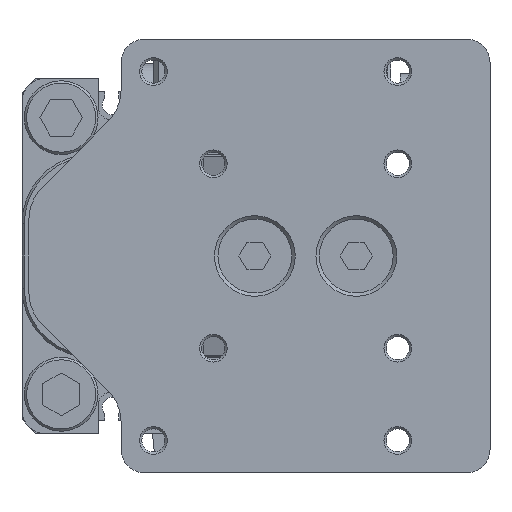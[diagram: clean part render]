
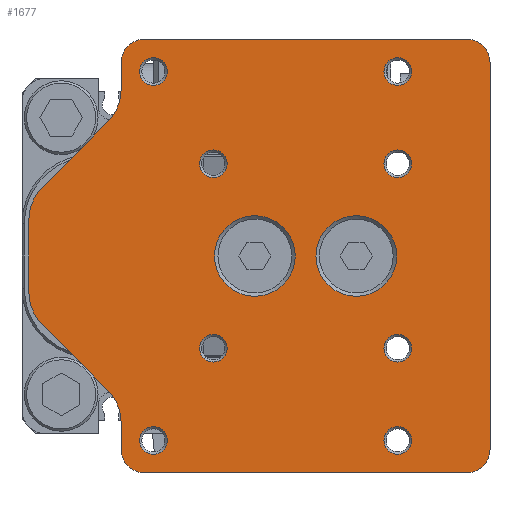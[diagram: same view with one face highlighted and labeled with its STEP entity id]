
A CAD part, front view. The second image highlights one B-rep face of the part: STEP entity #1677.
In plain terms, the highlighted planar face has unit normal (0, -1, 0).
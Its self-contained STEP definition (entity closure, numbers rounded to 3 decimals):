
#838=FACE_BOUND('',#3582,.T.);
#839=FACE_BOUND('',#3583,.T.);
#840=FACE_BOUND('',#3584,.T.);
#841=FACE_BOUND('',#3585,.T.);
#842=FACE_BOUND('',#3586,.T.);
#843=FACE_BOUND('',#3587,.T.);
#844=FACE_BOUND('',#3588,.T.);
#845=FACE_BOUND('',#3589,.T.);
#846=FACE_BOUND('',#3590,.T.);
#847=FACE_BOUND('',#3591,.T.);
#848=FACE_BOUND('',#3592,.T.);
#1677=ADVANCED_FACE('',(#838,#839,#840,#841,#842,#843,#844,#845,#846,#847,
#848),#2529,.T.);
#2529=PLANE('',#13729);
#3582=EDGE_LOOP('',(#5785,#5786,#5787,#5788,#5789,#5790,#5791,#5792,#5793,
#5794,#5795,#5796,#5797,#5798,#5799,#5800));
#3583=EDGE_LOOP('',(#5801));
#3584=EDGE_LOOP('',(#5802));
#3585=EDGE_LOOP('',(#5803));
#3586=EDGE_LOOP('',(#5804));
#3587=EDGE_LOOP('',(#5805));
#3588=EDGE_LOOP('',(#5806));
#3589=EDGE_LOOP('',(#5807));
#3590=EDGE_LOOP('',(#5808));
#3591=EDGE_LOOP('',(#5809));
#3592=EDGE_LOOP('',(#5810));
#4861=CIRCLE('',#13711,10.);
#4862=CIRCLE('',#13712,5.);
#4863=CIRCLE('',#13713,5.);
#4864=CIRCLE('',#13714,5.);
#4865=CIRCLE('',#13715,5.);
#4866=CIRCLE('',#13716,10.);
#4867=CIRCLE('',#13717,10.);
#4868=CIRCLE('',#13718,10.);
#4869=CIRCLE('',#13719,8.75);
#4870=CIRCLE('',#13720,3.);
#4871=CIRCLE('',#13721,3.);
#4872=CIRCLE('',#13722,3.);
#4873=CIRCLE('',#13723,3.);
#4874=CIRCLE('',#13724,3.);
#4875=CIRCLE('',#13725,3.);
#4876=CIRCLE('',#13726,3.);
#4877=CIRCLE('',#13727,3.);
#4878=CIRCLE('',#13728,8.75);
#5785=ORIENTED_EDGE('',*,*,#10206,.T.);
#5786=ORIENTED_EDGE('',*,*,#10207,.T.);
#5787=ORIENTED_EDGE('',*,*,#10208,.T.);
#5788=ORIENTED_EDGE('',*,*,#10209,.T.);
#5789=ORIENTED_EDGE('',*,*,#10210,.T.);
#5790=ORIENTED_EDGE('',*,*,#10211,.T.);
#5791=ORIENTED_EDGE('',*,*,#10212,.T.);
#5792=ORIENTED_EDGE('',*,*,#10213,.T.);
#5793=ORIENTED_EDGE('',*,*,#10214,.T.);
#5794=ORIENTED_EDGE('',*,*,#10215,.T.);
#5795=ORIENTED_EDGE('',*,*,#10216,.T.);
#5796=ORIENTED_EDGE('',*,*,#10217,.T.);
#5797=ORIENTED_EDGE('',*,*,#10218,.T.);
#5798=ORIENTED_EDGE('',*,*,#10219,.T.);
#5799=ORIENTED_EDGE('',*,*,#10220,.T.);
#5800=ORIENTED_EDGE('',*,*,#10221,.T.);
#5801=ORIENTED_EDGE('',*,*,#10222,.T.);
#5802=ORIENTED_EDGE('',*,*,#10223,.T.);
#5803=ORIENTED_EDGE('',*,*,#10224,.T.);
#5804=ORIENTED_EDGE('',*,*,#10225,.T.);
#5805=ORIENTED_EDGE('',*,*,#10226,.T.);
#5806=ORIENTED_EDGE('',*,*,#10227,.T.);
#5807=ORIENTED_EDGE('',*,*,#10228,.T.);
#5808=ORIENTED_EDGE('',*,*,#10229,.T.);
#5809=ORIENTED_EDGE('',*,*,#10230,.T.);
#5810=ORIENTED_EDGE('',*,*,#10231,.T.);
#8916=VERTEX_POINT('',#19448);
#8917=VERTEX_POINT('',#19449);
#8918=VERTEX_POINT('',#19451);
#8919=VERTEX_POINT('',#19453);
#8920=VERTEX_POINT('',#19455);
#8921=VERTEX_POINT('',#19457);
#8922=VERTEX_POINT('',#19459);
#8923=VERTEX_POINT('',#19461);
#8924=VERTEX_POINT('',#19463);
#8925=VERTEX_POINT('',#19465);
#8926=VERTEX_POINT('',#19467);
#8927=VERTEX_POINT('',#19469);
#8928=VERTEX_POINT('',#19471);
#8929=VERTEX_POINT('',#19473);
#8930=VERTEX_POINT('',#19475);
#8931=VERTEX_POINT('',#19477);
#8932=VERTEX_POINT('',#19480);
#8933=VERTEX_POINT('',#19482);
#8934=VERTEX_POINT('',#19484);
#8935=VERTEX_POINT('',#19486);
#8936=VERTEX_POINT('',#19488);
#8937=VERTEX_POINT('',#19490);
#8938=VERTEX_POINT('',#19492);
#8939=VERTEX_POINT('',#19494);
#8940=VERTEX_POINT('',#19496);
#8941=VERTEX_POINT('',#19498);
#10206=EDGE_CURVE('',#8916,#8917,#11839,.T.);
#10207=EDGE_CURVE('',#8917,#8918,#4861,.T.);
#10208=EDGE_CURVE('',#8918,#8919,#11840,.T.);
#10209=EDGE_CURVE('',#8919,#8920,#4862,.T.);
#10210=EDGE_CURVE('',#8920,#8921,#11841,.T.);
#10211=EDGE_CURVE('',#8921,#8922,#4863,.T.);
#10212=EDGE_CURVE('',#8922,#8923,#11842,.T.);
#10213=EDGE_CURVE('',#8923,#8924,#4864,.T.);
#10214=EDGE_CURVE('',#8924,#8925,#11843,.T.);
#10215=EDGE_CURVE('',#8925,#8926,#4865,.T.);
#10216=EDGE_CURVE('',#8926,#8927,#11844,.T.);
#10217=EDGE_CURVE('',#8927,#8928,#4866,.T.);
#10218=EDGE_CURVE('',#8928,#8929,#11845,.T.);
#10219=EDGE_CURVE('',#8929,#8930,#4867,.T.);
#10220=EDGE_CURVE('',#8930,#8931,#11846,.T.);
#10221=EDGE_CURVE('',#8931,#8916,#4868,.T.);
#10222=EDGE_CURVE('',#8932,#8932,#4869,.T.);
#10223=EDGE_CURVE('',#8933,#8933,#4870,.T.);
#10224=EDGE_CURVE('',#8934,#8934,#4871,.T.);
#10225=EDGE_CURVE('',#8935,#8935,#4872,.T.);
#10226=EDGE_CURVE('',#8936,#8936,#4873,.T.);
#10227=EDGE_CURVE('',#8937,#8937,#4874,.T.);
#10228=EDGE_CURVE('',#8938,#8938,#4875,.T.);
#10229=EDGE_CURVE('',#8939,#8939,#4876,.T.);
#10230=EDGE_CURVE('',#8940,#8940,#4877,.T.);
#10231=EDGE_CURVE('',#8941,#8941,#4878,.T.);
#11839=LINE('',#19447,#12767);
#11840=LINE('',#19452,#12768);
#11841=LINE('',#19456,#12769);
#11842=LINE('',#19460,#12770);
#11843=LINE('',#19464,#12771);
#11844=LINE('',#19468,#12772);
#11845=LINE('',#19472,#12773);
#11846=LINE('',#19476,#12774);
#12767=VECTOR('',#15476,1.);
#12768=VECTOR('',#15479,1.);
#12769=VECTOR('',#15482,1.);
#12770=VECTOR('',#15485,1.);
#12771=VECTOR('',#15488,1.);
#12772=VECTOR('',#15491,1.);
#12773=VECTOR('',#15494,1.);
#12774=VECTOR('',#15497,1.);
#13711=AXIS2_PLACEMENT_3D('',#19450,#15477,#15478);
#13712=AXIS2_PLACEMENT_3D('',#19454,#15480,#15481);
#13713=AXIS2_PLACEMENT_3D('',#19458,#15483,#15484);
#13714=AXIS2_PLACEMENT_3D('',#19462,#15486,#15487);
#13715=AXIS2_PLACEMENT_3D('',#19466,#15489,#15490);
#13716=AXIS2_PLACEMENT_3D('',#19470,#15492,#15493);
#13717=AXIS2_PLACEMENT_3D('',#19474,#15495,#15496);
#13718=AXIS2_PLACEMENT_3D('',#19478,#15498,#15499);
#13719=AXIS2_PLACEMENT_3D('',#19479,#15500,#15501);
#13720=AXIS2_PLACEMENT_3D('',#19481,#15502,#15503);
#13721=AXIS2_PLACEMENT_3D('',#19483,#15504,#15505);
#13722=AXIS2_PLACEMENT_3D('',#19485,#15506,#15507);
#13723=AXIS2_PLACEMENT_3D('',#19487,#15508,#15509);
#13724=AXIS2_PLACEMENT_3D('',#19489,#15510,#15511);
#13725=AXIS2_PLACEMENT_3D('',#19491,#15512,#15513);
#13726=AXIS2_PLACEMENT_3D('',#19493,#15514,#15515);
#13727=AXIS2_PLACEMENT_3D('',#19495,#15516,#15517);
#13728=AXIS2_PLACEMENT_3D('',#19497,#15518,#15519);
#13729=AXIS2_PLACEMENT_3D('',#19499,#15520,#15521);
#15476=DIRECTION('',(0.707,0.,-0.707));
#15477=DIRECTION('',(0.,1.,0.));
#15478=DIRECTION('',(0.707,0.,0.707));
#15479=DIRECTION('',(0.,0.,-1.));
#15480=DIRECTION('',(0.,-1.,0.));
#15481=DIRECTION('',(-1.,0.,0.));
#15482=DIRECTION('',(1.,0.,0.));
#15483=DIRECTION('',(0.,-1.,0.));
#15484=DIRECTION('',(0.,0.,-1.));
#15485=DIRECTION('',(0.,0.,1.));
#15486=DIRECTION('',(0.,-1.,0.));
#15487=DIRECTION('',(1.,0.,0.));
#15488=DIRECTION('',(-1.,0.,0.));
#15489=DIRECTION('',(0.,-1.,0.));
#15490=DIRECTION('',(0.,0.,1.));
#15491=DIRECTION('',(0.,0.,-1.));
#15492=DIRECTION('',(0.,1.,0.));
#15493=DIRECTION('',(1.,0.,0.));
#15494=DIRECTION('',(-0.707,0.,-0.707));
#15495=DIRECTION('',(0.,-1.,0.));
#15496=DIRECTION('',(-0.707,0.,0.707));
#15497=DIRECTION('',(0.,0.,-1.));
#15498=DIRECTION('',(0.,-1.,0.));
#15499=DIRECTION('',(-1.,0.,0.));
#15500=DIRECTION('',(0.,1.,0.));
#15501=DIRECTION('',(-1.,0.,0.));
#15502=DIRECTION('',(0.,1.,0.));
#15503=DIRECTION('',(-1.,0.,0.));
#15504=DIRECTION('',(0.,1.,0.));
#15505=DIRECTION('',(1.,0.,0.));
#15506=DIRECTION('',(0.,1.,0.));
#15507=DIRECTION('',(1.,0.,0.));
#15508=DIRECTION('',(0.,1.,0.));
#15509=DIRECTION('',(-1.,0.,0.));
#15510=DIRECTION('',(0.,1.,0.));
#15511=DIRECTION('',(1.,0.,0.));
#15512=DIRECTION('',(0.,1.,0.));
#15513=DIRECTION('',(-1.,0.,0.));
#15514=DIRECTION('',(0.,1.,0.));
#15515=DIRECTION('',(-1.,0.,0.));
#15516=DIRECTION('',(0.,1.,0.));
#15517=DIRECTION('',(-1.,0.,0.));
#15518=DIRECTION('',(0.,1.,0.));
#15519=DIRECTION('',(-1.,0.,0.));
#15520=DIRECTION('',(0.,-1.,0.));
#15521=DIRECTION('',(-1.,0.,0.));
#19447=CARTESIAN_POINT('',(4.429,-92.,-53.429));
#19448=CARTESIAN_POINT('',(4.429,-92.,-53.429));
#19449=CARTESIAN_POINT('',(18.571,-92.,-67.571));
#19450=CARTESIAN_POINT('',(11.5,-92.,-74.642));
#19451=CARTESIAN_POINT('',(21.5,-92.,-74.642));
#19452=CARTESIAN_POINT('',(21.5,-92.,-74.642));
#19453=CARTESIAN_POINT('',(21.5,-92.,-80.5));
#19454=CARTESIAN_POINT('',(26.5,-92.,-80.5));
#19455=CARTESIAN_POINT('',(26.5,-92.,-85.5));
#19456=CARTESIAN_POINT('',(26.5,-92.,-85.5));
#19457=CARTESIAN_POINT('',(96.5,-92.,-85.5));
#19458=CARTESIAN_POINT('',(96.5,-92.,-80.5));
#19459=CARTESIAN_POINT('',(101.5,-92.,-80.5));
#19460=CARTESIAN_POINT('',(101.5,-92.,-80.5));
#19461=CARTESIAN_POINT('',(101.5,-92.,3.5));
#19462=CARTESIAN_POINT('',(96.5,-92.,3.5));
#19463=CARTESIAN_POINT('',(96.5,-92.,8.5));
#19464=CARTESIAN_POINT('',(96.5,-92.,8.5));
#19465=CARTESIAN_POINT('',(26.5,-92.,8.5));
#19466=CARTESIAN_POINT('',(26.5,-92.,3.5));
#19467=CARTESIAN_POINT('',(21.5,-92.,3.5));
#19468=CARTESIAN_POINT('',(21.5,-92.,3.5));
#19469=CARTESIAN_POINT('',(21.5,-92.,-2.358));
#19470=CARTESIAN_POINT('',(11.5,-92.,-2.358));
#19471=CARTESIAN_POINT('',(18.571,-92.,-9.429));
#19472=CARTESIAN_POINT('',(18.571,-92.,-9.429));
#19473=CARTESIAN_POINT('',(4.429,-92.,-23.571));
#19474=CARTESIAN_POINT('',(11.5,-92.,-30.642));
#19475=CARTESIAN_POINT('',(1.5,-92.,-30.642));
#19476=CARTESIAN_POINT('',(1.5,-92.,-30.642));
#19477=CARTESIAN_POINT('',(1.5,-92.,-46.358));
#19478=CARTESIAN_POINT('',(11.5,-92.,-46.358));
#19479=CARTESIAN_POINT('',(72.5,-92.,-38.5));
#19480=CARTESIAN_POINT('',(63.75,-92.,-38.5));
#19481=CARTESIAN_POINT('',(41.5,-92.,-58.5));
#19482=CARTESIAN_POINT('',(38.5,-92.,-58.5));
#19483=CARTESIAN_POINT('',(28.5,-92.,-78.5));
#19484=CARTESIAN_POINT('',(31.5,-92.,-78.5));
#19485=CARTESIAN_POINT('',(81.5,-92.,-78.5));
#19486=CARTESIAN_POINT('',(84.5,-92.,-78.5));
#19487=CARTESIAN_POINT('',(81.5,-92.,-58.5));
#19488=CARTESIAN_POINT('',(78.5,-92.,-58.5));
#19489=CARTESIAN_POINT('',(81.5,-92.,-18.5));
#19490=CARTESIAN_POINT('',(84.5,-92.,-18.5));
#19491=CARTESIAN_POINT('',(41.5,-92.,-18.5));
#19492=CARTESIAN_POINT('',(38.5,-92.,-18.5));
#19493=CARTESIAN_POINT('',(28.5,-92.,1.5));
#19494=CARTESIAN_POINT('',(25.5,-92.,1.5));
#19495=CARTESIAN_POINT('',(81.5,-92.,1.5));
#19496=CARTESIAN_POINT('',(78.5,-92.,1.5));
#19497=CARTESIAN_POINT('',(50.5,-92.,-38.5));
#19498=CARTESIAN_POINT('',(41.75,-92.,-38.5));
#19499=CARTESIAN_POINT('',(101.5,-92.,-38.5));
